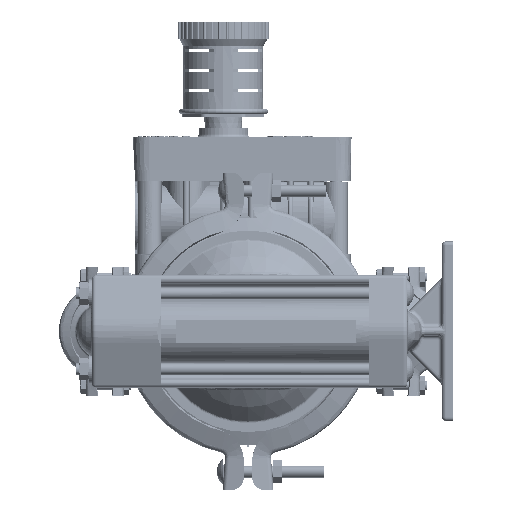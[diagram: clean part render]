
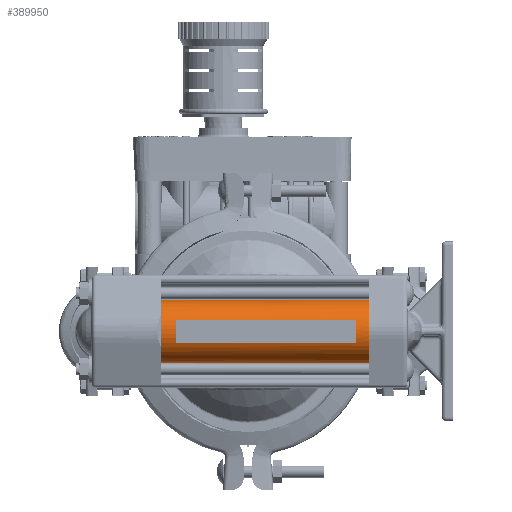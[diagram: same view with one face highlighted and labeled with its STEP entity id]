
A CAD part, left-side view. The second image highlights one B-rep face of the part: STEP entity #389950.
In plain terms, the highlighted cylindrical face has radius 17.907 mm (diameter 35.814 mm), a partial arc.
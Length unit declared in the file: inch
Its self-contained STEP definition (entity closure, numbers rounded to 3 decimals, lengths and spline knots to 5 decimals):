
#265474=DIRECTION('',(0.,-1.,0.));
#265475=VECTOR('',#265474,4.615);
#265476=CARTESIAN_POINT('',(-3.22217,1.927,0.70499));
#265477=LINE('',#265476,#265475);
#265478=CARTESIAN_POINT('',(-3.218,-2.688,0.));
#265479=DIRECTION('',(0.,-1.,0.));
#265480=DIRECTION('',(-0.006,0.,1.));
#265481=AXIS2_PLACEMENT_3D('',#265478,#265479,#265480);
#265483=CARTESIAN_POINT('',(-3.218,-2.688,0.));
#265484=DIRECTION('',(0.,-1.,0.));
#265485=DIRECTION('',(-0.891,0.,-0.455));
#265486=AXIS2_PLACEMENT_3D('',#265483,#265484,#265485);
#265488=CARTESIAN_POINT('',(-3.218,1.927,0.));
#265489=DIRECTION('',(0.,-1.,0.));
#265490=DIRECTION('',(-0.979,0.,-0.205));
#265491=AXIS2_PLACEMENT_3D('',#265488,#265489,#265490);
#265493=CARTESIAN_POINT('',(-3.218,1.927,0.));
#265494=DIRECTION('',(0.,-1.,0.));
#265495=DIRECTION('',(-0.051,0.,0.999));
#265496=AXIS2_PLACEMENT_3D('',#265493,#265494,#265495);
#265512=CARTESIAN_POINT('',(-3.218,1.927,0.));
#265513=DIRECTION('',(0.,1.,0.));
#265514=DIRECTION('',(-0.051,0.,0.999));
#265515=AXIS2_PLACEMENT_3D('',#265512,#265513,#265514);
#265715=CARTESIAN_POINT('',(-3.218,1.927,0.));
#265716=DIRECTION('',(0.,1.,0.));
#265717=DIRECTION('',(-0.979,0.,-0.205));
#265718=AXIS2_PLACEMENT_3D('',#265715,#265716,#265717);
#265751=CARTESIAN_POINT('',(-3.218,1.927,0.));
#265752=DIRECTION('',(0.,1.,0.));
#265753=DIRECTION('',(-0.006,0.,-1.));
#265754=AXIS2_PLACEMENT_3D('',#265751,#265752,#265753);
#265770=DIRECTION('',(0.,-1.,0.));
#265771=VECTOR('',#265770,4.615);
#265772=CARTESIAN_POINT('',(-3.22217,1.927,-0.70499));
#265773=LINE('',#265772,#265771);
#265792=CARTESIAN_POINT('',(-3.218,-2.688,0.));
#265793=DIRECTION('',(0.,1.,0.));
#265794=DIRECTION('',(-0.006,0.,-1.));
#265795=AXIS2_PLACEMENT_3D('',#265792,#265793,#265794);
#295226=CARTESIAN_POINT('',(-3.218,-2.688,0.));
#295227=DIRECTION('',(0.,1.,0.));
#295228=DIRECTION('',(-0.891,0.,-0.455));
#295229=AXIS2_PLACEMENT_3D('',#295226,#295227,#295228);
#298901=CARTESIAN_POINT('',(-3.218,1.599,0.));
#298902=DIRECTION('',(0.,-1.,0.));
#298903=DIRECTION('',(-0.935,0.,0.355));
#298904=AXIS2_PLACEMENT_3D('',#298901,#298902,#298903);
#298910=DIRECTION('',(0.,-1.,0.));
#298911=VECTOR('',#298910,4.);
#298912=CARTESIAN_POINT('',(-3.87719,1.599,0.25));
#298913=LINE('',#298912,#298911);
#298918=CARTESIAN_POINT('',(-3.218,-2.401,0.));
#298919=DIRECTION('',(0.,-1.,0.));
#298920=DIRECTION('',(-0.935,0.,0.355));
#298921=AXIS2_PLACEMENT_3D('',#298918,#298919,#298920);
#298927=DIRECTION('',(0.,-1.,0.));
#298928=VECTOR('',#298927,4.);
#298929=CARTESIAN_POINT('',(-3.87719,1.599,-0.25));
#298930=LINE('',#298929,#298928);
#338998=CARTESIAN_POINT('',(-3.22217,-2.688,-0.70499));
#339000=VERTEX_POINT('',#338998);
#339003=CARTESIAN_POINT('',(-3.22217,1.927,0.70499));
#339005=VERTEX_POINT('',#339003);
#339008=CARTESIAN_POINT('',(-3.22217,1.927,-0.70499));
#339010=VERTEX_POINT('',#339008);
#339506=CARTESIAN_POINT('',(-3.87719,1.599,0.25));
#339507=CARTESIAN_POINT('',(-3.87719,1.599,-0.25));
#339508=VERTEX_POINT('',#339506);
#339509=VERTEX_POINT('',#339507);
#339510=CARTESIAN_POINT('',(-3.87719,-2.401,-0.25));
#339511=VERTEX_POINT('',#339510);
#339512=CARTESIAN_POINT('',(-3.87719,-2.401,0.25));
#339513=VERTEX_POINT('',#339512);
#344019=CARTESIAN_POINT('',(-3.84582,-2.688,-0.32072));
#344021=VERTEX_POINT('',#344019);
#344025=CARTESIAN_POINT('',(-3.84582,-2.688,0.32072));
#344026=VERTEX_POINT('',#344025);
#344031=CARTESIAN_POINT('',(-3.30589,-2.688,-0.6995));
#344033=VERTEX_POINT('',#344031);
#344067=CARTESIAN_POINT('',(-3.22217,-2.688,0.70499));
#344068=VERTEX_POINT('',#344067);
#350503=CARTESIAN_POINT('',(-3.25365,1.927,0.7041));
#350504=VERTEX_POINT('',#350503);
#350505=CARTESIAN_POINT('',(-3.25365,1.927,-0.7041));
#350507=VERTEX_POINT('',#350505);
#350519=CARTESIAN_POINT('',(-3.908,1.927,-0.14465));
#350520=CARTESIAN_POINT('',(-3.908,1.927,0.14465));
#350521=VERTEX_POINT('',#350519);
#350522=VERTEX_POINT('',#350520);
#389912=CARTESIAN_POINT('',(-3.218,-2.688,0.));
#389913=DIRECTION('',(0.,-1.,0.));
#389914=DIRECTION('',(0.,0.,1.));
#389915=AXIS2_PLACEMENT_3D('',#389912,#389913,#389914);
#389916=CYLINDRICAL_SURFACE('',#389915,0.705);
#389918=ORIENTED_EDGE('',*,*,#389917,.T.);
#389920=ORIENTED_EDGE('',*,*,#389919,.T.);
#389922=ORIENTED_EDGE('',*,*,#389921,.T.);
#389924=ORIENTED_EDGE('',*,*,#389923,.F.);
#389925=ORIENTED_EDGE('',*,*,#389887,.T.);
#389927=ORIENTED_EDGE('',*,*,#389926,.F.);
#389929=ORIENTED_EDGE('',*,*,#389928,.F.);
#389931=ORIENTED_EDGE('',*,*,#389930,.T.);
#389933=ORIENTED_EDGE('',*,*,#389932,.F.);
#389935=ORIENTED_EDGE('',*,*,#389934,.T.);
#389937=ORIENTED_EDGE('',*,*,#389936,.F.);
#389938=EDGE_LOOP('',(#389918,#389920,#389922,#389924,#389925,#389927,#389929,
#389931,#389933,#389935,#389937));
#389939=FACE_OUTER_BOUND('',#389938,.F.);
#389941=ORIENTED_EDGE('',*,*,#389940,.T.);
#389943=ORIENTED_EDGE('',*,*,#389942,.T.);
#389945=ORIENTED_EDGE('',*,*,#389944,.F.);
#389947=ORIENTED_EDGE('',*,*,#389946,.F.);
#389948=EDGE_LOOP('',(#389941,#389943,#389945,#389947));
#389949=FACE_BOUND('',#389948,.F.);
#389950=ADVANCED_FACE('',(#389939,#389949),#389916,.T.);
#265482=CIRCLE('',#265481,0.705);
#265487=CIRCLE('',#265486,0.705);
#265492=CIRCLE('',#265491,0.705);
#265497=CIRCLE('',#265496,0.705);
#265516=CIRCLE('',#265515,0.705);
#265719=CIRCLE('',#265718,0.705);
#265755=CIRCLE('',#265754,0.705);
#265796=CIRCLE('',#265795,0.705);
#295230=CIRCLE('',#295229,0.705);
#298905=CIRCLE('',#298904,0.705);
#298922=CIRCLE('',#298921,0.705);
#389887=EDGE_CURVE('',#344021,#344033,#265487,.T.);
#389917=EDGE_CURVE('',#350504,#339005,#265516,.T.);
#389919=EDGE_CURVE('',#339005,#344068,#265477,.T.);
#389921=EDGE_CURVE('',#344068,#344026,#265482,.T.);
#389923=EDGE_CURVE('',#344021,#344026,#295230,.T.);
#389926=EDGE_CURVE('',#339000,#344033,#265796,.T.);
#389928=EDGE_CURVE('',#339010,#339000,#265773,.T.);
#389930=EDGE_CURVE('',#339010,#350507,#265755,.T.);
#389932=EDGE_CURVE('',#350521,#350507,#265492,.T.);
#389934=EDGE_CURVE('',#350521,#350522,#265719,.T.);
#389936=EDGE_CURVE('',#350504,#350522,#265497,.T.);
#389940=EDGE_CURVE('',#339508,#339509,#298905,.T.);
#389942=EDGE_CURVE('',#339509,#339511,#298930,.T.);
#389944=EDGE_CURVE('',#339513,#339511,#298922,.T.);
#389946=EDGE_CURVE('',#339508,#339513,#298913,.T.);
